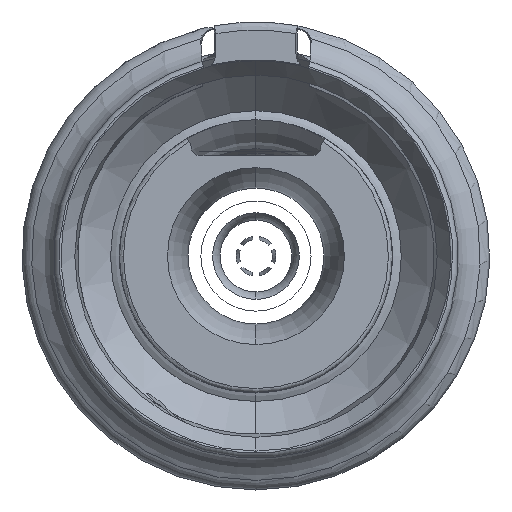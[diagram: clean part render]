
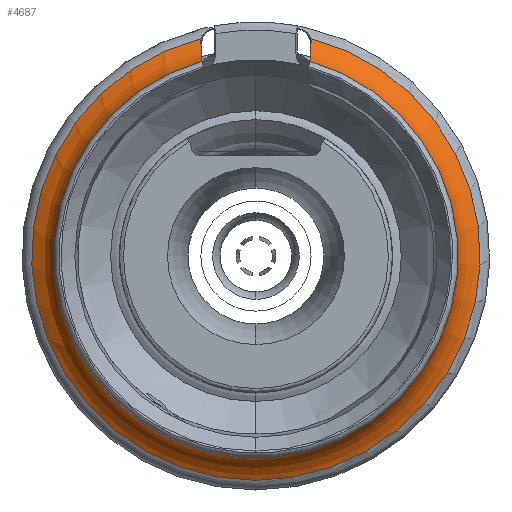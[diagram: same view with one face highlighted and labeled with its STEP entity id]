
A CAD part, front view. The second image highlights one B-rep face of the part: STEP entity #4687.
In plain terms, the highlighted toroidal (fillet/blend) face has major radius 15.001 mm and minor radius 2.5 mm.
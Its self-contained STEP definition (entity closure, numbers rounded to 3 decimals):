
#2594=CARTESIAN_POINT('',(0.,23.582,0.));
#2595=DIRECTION('',(0.,-1.,0.));
#2596=DIRECTION('',(-0.246,0.,0.969));
#2597=AXIS2_PLACEMENT_3D('',#2594,#2595,#2596);
#2599=CARTESIAN_POINT('',(3.449,23.582,13.577));
#3278=CARTESIAN_POINT('',(-3.447,23.545,13.493));
#3279=CARTESIAN_POINT('',(-3.443,23.515,13.428));
#3280=CARTESIAN_POINT('',(-3.437,23.449,13.301));
#3281=CARTESIAN_POINT('',(-3.427,23.337,13.123));
#3282=CARTESIAN_POINT('',(-3.418,23.21,12.954));
#3283=CARTESIAN_POINT('',(-3.41,23.07,12.797));
#3284=CARTESIAN_POINT('',(-3.401,22.918,12.653));
#3285=CARTESIAN_POINT('',(-3.394,22.756,12.522));
#3286=CARTESIAN_POINT('',(-3.387,22.584,12.405));
#3287=CARTESIAN_POINT('',(-3.381,22.403,12.304));
#3288=CARTESIAN_POINT('',(-3.376,22.215,12.218));
#3289=CARTESIAN_POINT('',(-3.372,22.021,12.149));
#3290=CARTESIAN_POINT('',(-3.369,21.824,12.096));
#3291=CARTESIAN_POINT('',(-3.367,21.619,12.059));
#3292=CARTESIAN_POINT('',(-3.365,21.408,12.039));
#3293=CARTESIAN_POINT('',(-3.365,21.267,12.038));
#3294=CARTESIAN_POINT('',(-3.365,21.196,12.041));
#3296=CARTESIAN_POINT('',(0.,21.196,0.));
#3297=DIRECTION('',(0.,-1.,0.));
#3298=DIRECTION('',(-0.269,0.,0.963));
#3299=AXIS2_PLACEMENT_3D('',#3296,#3297,#3298);
#3301=CARTESIAN_POINT('',(3.365,21.196,12.041));
#3302=CARTESIAN_POINT('',(3.365,21.266,12.038));
#3303=CARTESIAN_POINT('',(3.365,21.404,12.039));
#3304=CARTESIAN_POINT('',(3.366,21.607,12.057));
#3305=CARTESIAN_POINT('',(3.369,21.809,12.092));
#3306=CARTESIAN_POINT('',(3.372,22.008,12.144));
#3307=CARTESIAN_POINT('',(3.376,22.202,12.213));
#3308=CARTESIAN_POINT('',(3.381,22.391,12.298));
#3309=CARTESIAN_POINT('',(3.387,22.572,12.398));
#3310=CARTESIAN_POINT('',(3.394,22.745,12.514));
#3311=CARTESIAN_POINT('',(3.401,22.909,12.644));
#3312=CARTESIAN_POINT('',(3.409,23.062,12.788));
#3313=CARTESIAN_POINT('',(3.418,23.202,12.944));
#3314=CARTESIAN_POINT('',(3.427,23.33,13.114));
#3315=CARTESIAN_POINT('',(3.437,23.447,13.297));
#3316=CARTESIAN_POINT('',(3.443,23.514,13.427));
#3317=CARTESIAN_POINT('',(3.447,23.545,13.493));
#3319=CARTESIAN_POINT('',(3.447,23.545,13.493));
#3320=CARTESIAN_POINT('',(3.447,23.55,13.502));
#3321=CARTESIAN_POINT('',(3.448,23.558,13.521));
#3322=CARTESIAN_POINT('',(3.449,23.57,13.549));
#3323=CARTESIAN_POINT('',(3.449,23.578,13.567));
#3324=CARTESIAN_POINT('',(3.449,23.582,13.577));
#3326=CARTESIAN_POINT('',(-3.449,23.582,13.577));
#3327=CARTESIAN_POINT('',(-3.449,23.578,13.567));
#3328=CARTESIAN_POINT('',(-3.449,23.57,13.549));
#3329=CARTESIAN_POINT('',(-3.448,23.558,13.521));
#3330=CARTESIAN_POINT('',(-3.447,23.55,13.502));
#3331=CARTESIAN_POINT('',(-3.447,23.545,13.493));
#3693=VERTEX_POINT('',#3278);
#3694=VERTEX_POINT('',#3294);
#3695=VERTEX_POINT('',#3301);
#3696=VERTEX_POINT('',#3317);
#3731=VERTEX_POINT('',#3326);
#3733=VERTEX_POINT('',#2599);
#4670=CARTESIAN_POINT('',(0.,21.288,0.));
#4671=DIRECTION('',(0.,1.,0.));
#4672=DIRECTION('',(-0.001,0.,1.));
#4673=AXIS2_PLACEMENT_3D('',#4670,#4671,#4672);
#4674=TOROIDAL_SURFACE('',#4673,15.001,2.5);
#4676=ORIENTED_EDGE('',*,*,#4675,.T.);
#4677=ORIENTED_EDGE('',*,*,#4350,.T.);
#4679=ORIENTED_EDGE('',*,*,#4678,.T.);
#4681=ORIENTED_EDGE('',*,*,#4680,.T.);
#4682=ORIENTED_EDGE('',*,*,#4471,.F.);
#4684=ORIENTED_EDGE('',*,*,#4683,.T.);
#4685=EDGE_LOOP('',(#4676,#4677,#4679,#4681,#4682,#4684));
#4686=FACE_OUTER_BOUND('',#4685,.F.);
#4687=ADVANCED_FACE('',(#4686),#4674,.F.);
#2598=CIRCLE('',#2597,14.008);
#3295=B_SPLINE_CURVE_WITH_KNOTS('',3,(#3278,#3279,#3280,#3281,#3282,#3283,#3284,
#3285,#3286,#3287,#3288,#3289,#3290,#3291,#3292,#3293,#3294),.UNSPECIFIED.,.F.,
.F.,(4,1,1,1,1,1,1,1,1,1,1,1,1,1,4),(0.,0.071,0.143,
0.214,0.286,0.357,0.429,0.5,
0.571,0.643,0.714,0.786,
0.857,0.929,1.),.UNSPECIFIED.);
#3300=CIRCLE('',#3299,12.502);
#3318=B_SPLINE_CURVE_WITH_KNOTS('',3,(#3301,#3302,#3303,#3304,#3305,#3306,#3307,
#3308,#3309,#3310,#3311,#3312,#3313,#3314,#3315,#3316,#3317),.UNSPECIFIED.,.F.,
.F.,(4,1,1,1,1,1,1,1,1,1,1,1,1,1,4),(0.,0.071,0.143,
0.214,0.286,0.357,0.429,0.5,
0.571,0.643,0.714,0.786,
0.857,0.929,1.),.UNSPECIFIED.);
#3325=B_SPLINE_CURVE_WITH_KNOTS('',3,(#3319,#3320,#3321,#3322,#3323,#3324),
.UNSPECIFIED.,.F.,.F.,(4,1,1,4),(0.,0.333,0.667,1.),
.UNSPECIFIED.);
#3332=B_SPLINE_CURVE_WITH_KNOTS('',3,(#3326,#3327,#3328,#3329,#3330,#3331),
.UNSPECIFIED.,.F.,.F.,(4,1,1,4),(0.,0.333,0.667,1.),
.UNSPECIFIED.);
#4350=EDGE_CURVE('',#3694,#3695,#3300,.T.);
#4471=EDGE_CURVE('',#3731,#3733,#2598,.T.);
#4675=EDGE_CURVE('',#3693,#3694,#3295,.T.);
#4678=EDGE_CURVE('',#3695,#3696,#3318,.T.);
#4680=EDGE_CURVE('',#3696,#3733,#3325,.T.);
#4683=EDGE_CURVE('',#3731,#3693,#3332,.T.);
